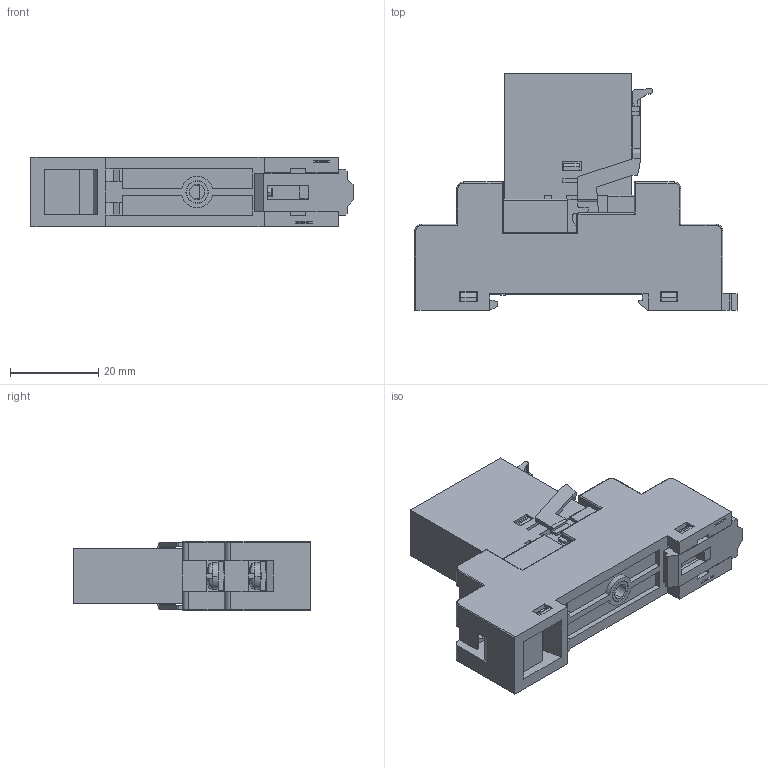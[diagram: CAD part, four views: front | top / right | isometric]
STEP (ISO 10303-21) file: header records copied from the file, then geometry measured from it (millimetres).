
FILE_DESCRIPTION (( 'STEP AP203' ), '1' );
FILE_NAME ('SRT05-E+RFT1CO 俋倛.STEP', '2023-01-31T08:44:57', ( '' ), ( '' ), 'SwSTEP 2.0', 'SolidWorks 2018', '' );
FILE_SCHEMA (( 'CONFIG_CONTROL_DESIGN' ));
Products named in the file (1): SRT05-E+RFT1CO 俋倛
Bounding box: 72.85 x 53.5 x 15.8 mm (x, y, z)
Volume: 31541.5 mm3; surface area: 15707.8 mm2
Topology: 3 solids, 8 shells, 1512 faces, 4104 edges, 2650 vertices
Faces by surface type: plane 1073, cylinder 267, cone 82, torus 50, bspline 40
Entity records: 51825 total; most frequent: CARTESIAN_POINT 14274, ORIENTED_EDGE 8188, DIRECTION 7195, EDGE_CURVE 4094, LINE 2937, VECTOR 2937, VERTEX_POINT 2650, AXIS2_PLACEMENT_3D 2129
